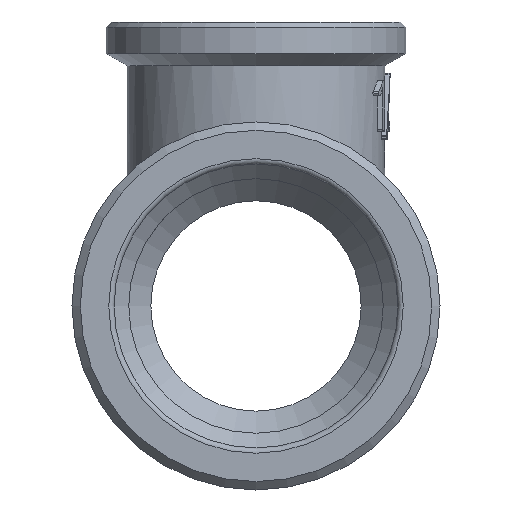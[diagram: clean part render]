
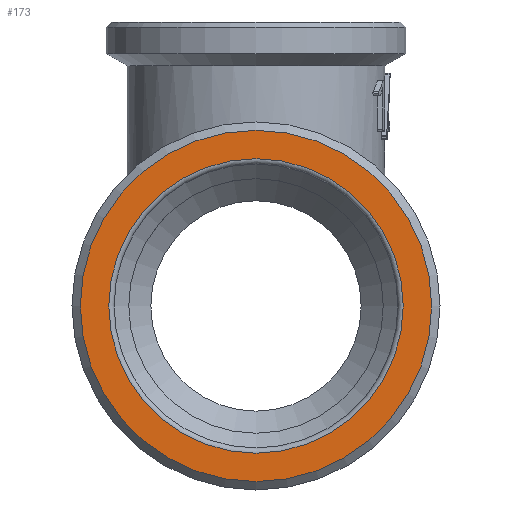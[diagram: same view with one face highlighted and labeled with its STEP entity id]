
A CAD part, front view. The second image highlights one B-rep face of the part: STEP entity #173.
In plain terms, the highlighted planar face has unit normal (0, -1, 0).
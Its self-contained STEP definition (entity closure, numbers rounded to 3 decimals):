
#173=ADVANCED_FACE('',(#1638,#1640),#1642,.F.);
#1638=FACE_BOUND('',#1639,.T.);
#1639=EDGE_LOOP('',(#4192));
#1640=FACE_BOUND('',#1641,.T.);
#1641=EDGE_LOOP('',(#4193));
#1642=PLANE('',#1643);
#1643=AXIS2_PLACEMENT_3D('',#1644,#1645,#1646);
#1644=CARTESIAN_POINT('',(0.,-28.,0.));
#1645=DIRECTION('',(0.,1.,0.));
#1646=DIRECTION('',(-1.,0.,0.));
#4192=ORIENTED_EDGE('',*,*,#6185,.T.);
#4193=ORIENTED_EDGE('',*,*,#6186,.T.);
#6185=EDGE_CURVE('',#7621,#7621,#7622,.T.);
#6186=EDGE_CURVE('',#7623,#7623,#7624,.F.);
#7621=VERTEX_POINT('',#13834);
#7622=CIRCLE('',#13835,16.7);
#7623=VERTEX_POINT('',#13839);
#7624=CIRCLE('',#13840,14.);
#13834=CARTESIAN_POINT('',(0.,-28.,16.7));
#13835=AXIS2_PLACEMENT_3D('',#13836,#13837,#13838);
#13836=CARTESIAN_POINT('',(0.,-28.,0.));
#13837=DIRECTION('',(0.,-1.,0.));
#13838=DIRECTION('',(0.,0.,1.));
#13839=CARTESIAN_POINT('',(14.,-28.,0.));
#13840=AXIS2_PLACEMENT_3D('',#13841,#13842,#13843);
#13841=CARTESIAN_POINT('',(0.,-28.,0.));
#13842=DIRECTION('',(0.,-1.,0.));
#13843=DIRECTION('',(1.,0.,0.));
